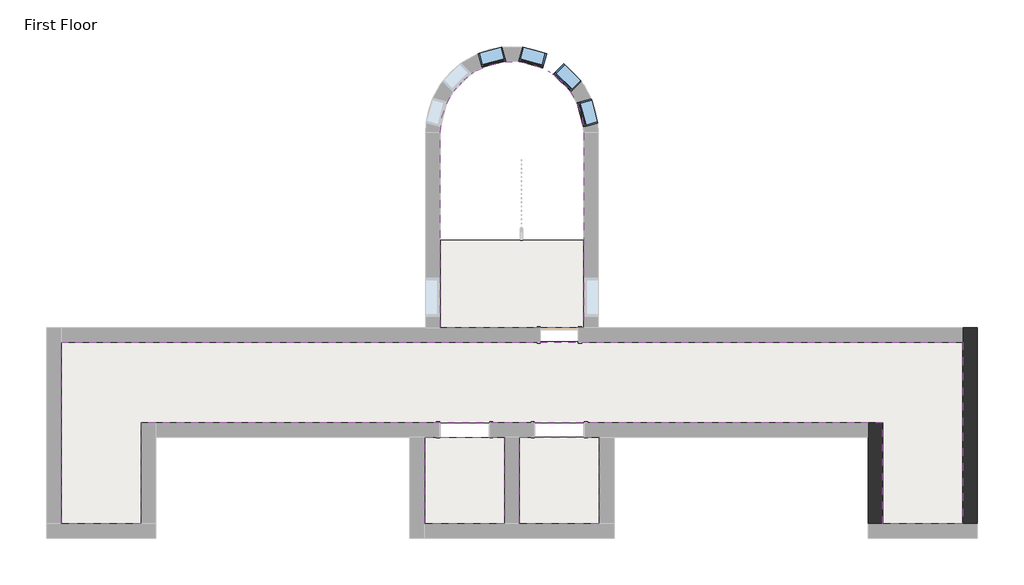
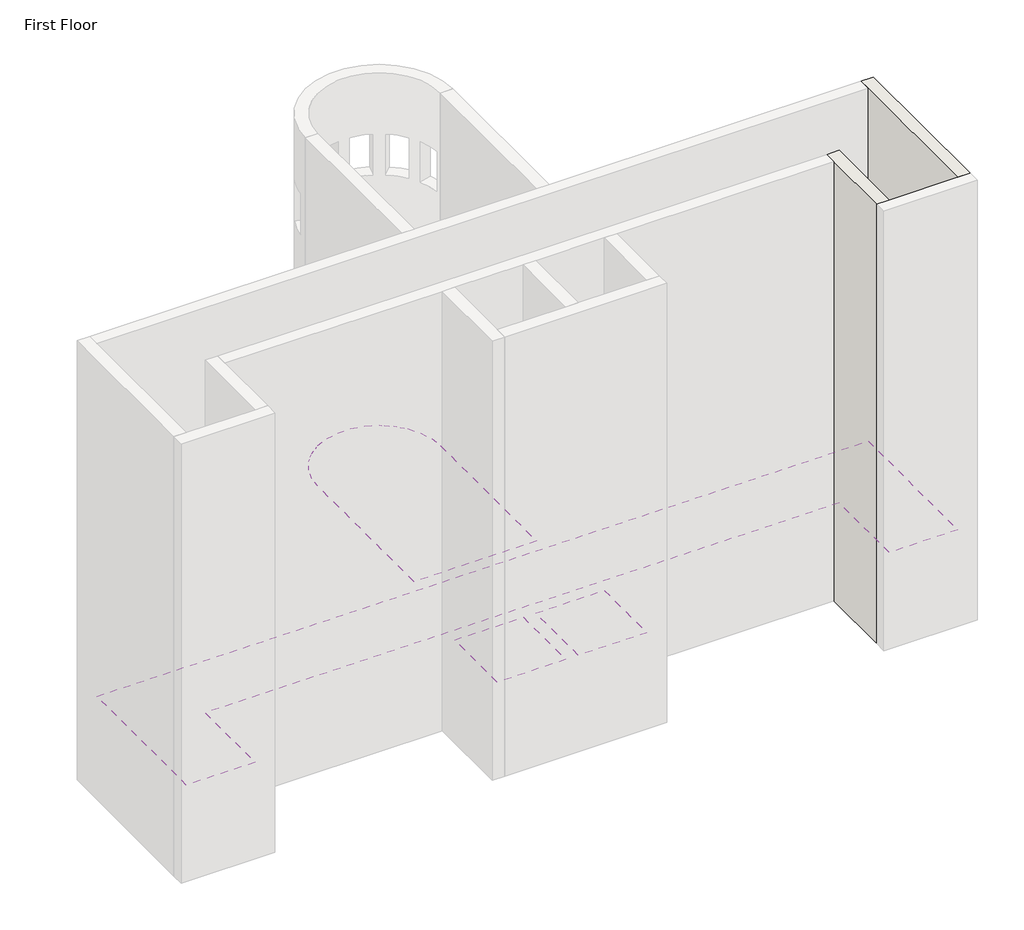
# One storey, part 3 of 5: 4 coverings, 4 windows, 2 slabs, 2 walls.
"""IFC4 building model written with IfcOpenShell, lengths in millimetres."""

import ifcopenshell
import ifcopenshell.guid

model = None  # the IFC model being written
_history = None  # IfcOwnerHistory: only IFC2X3 demands one
_inside = {}  # id of a spatial element -> (the spatial element, [elements in it])
_under = {}  # id of a project, library or spatial element -> (it, [spatial elements below it])
_declared = {}  # id of a project -> (the project, [libraries it declares])
_typed = {}  # id of a type object -> (the type object, [elements of that type])
_made_of = {}  # id of a material, layer set ... -> (it, [elements and type objects made of it])


def new_model(schema):
    """Start an empty IFC model of exactly this schema.

    Asked for "IFC4X3", IfcOpenShell would pick the latest addendum, in which some entities
    have other attributes; the version numbers below select the first issue.
    IFC2X3 requires an IfcOwnerHistory on every rooted entity: one is made here for all.
    """
    global model, _history
    if schema == "IFC4X3":
        model = ifcopenshell.file(schema_version=(4, 3, 0, 0))
    else:
        model = ifcopenshell.file(schema=schema)
    _inside.clear()
    _under.clear()
    _declared.clear()
    _typed.clear()
    _made_of.clear()
    _history = None
    if model.schema == "IFC2X3":
        org = make("IfcOrganization", Name="unknown")
        user = make(
            "IfcPersonAndOrganization",
            ThePerson=make("IfcPerson", FamilyName="unknown"),
            TheOrganization=org,
        )
        app = make(
            "IfcApplication",
            ApplicationDeveloper=org,
            Version="unknown",
            ApplicationFullName="unknown",
            ApplicationIdentifier="unknown",
        )
        _history = make(
            "IfcOwnerHistory",
            OwningUser=user,
            OwningApplication=app,
            ChangeAction="ADDED",
            CreationDate=0,
        )
    return model


def make(cls, **values):
    """One entity of the class cls with the attributes given. An attribute that is None is left unset."""
    return model.create_entity(
        cls, **{name: value for name, value in values.items() if value is not None}
    )


def rooted(cls, **values):
    """An entity with a GlobalId (a new one), such as an element, a storey or a relation."""
    return make(cls, GlobalId=ifcopenshell.guid.new(), OwnerHistory=_history, **values)


def si_unit(unit_type, name, prefix=None):
    """IfcSIUnit, for example si_unit("LENGTHUNIT", "METRE", prefix="MILLI")."""
    return make("IfcSIUnit", UnitType=unit_type, Prefix=prefix, Name=name)


def assignment(units):
    """IfcUnitAssignment: the units of a project."""
    return None if units is None else make("IfcUnitAssignment", Units=units)


def point(xyz):
    """IfcCartesianPoint."""
    return None if xyz is None else make("IfcCartesianPoint", Coordinates=xyz)


def direction(xyz):
    """IfcDirection."""
    return None if xyz is None else make("IfcDirection", DirectionRatios=xyz)


def frame(location, z_axis=None, x_axis=None):
    """IfcAxis2Placement3D, a coordinate frame: its origin and axes. An axis left out is left unset."""
    return make(
        "IfcAxis2Placement3D",
        Location=point(location),
        Axis=direction(z_axis),
        RefDirection=direction(x_axis),
    )


def frame_2d(location, x_axis=None):
    """IfcAxis2Placement2D, a coordinate frame in the plane: its origin and x axis."""
    return make(
        "IfcAxis2Placement2D", Location=point(location), RefDirection=direction(x_axis)
    )


def origin():
    """The frame at (0, 0, 0) with its axes left unset."""
    return frame((0.0, 0.0, 0.0))


def place(relative_to, where):
    """IfcLocalPlacement: puts the frame where relative to a parent placement (None: the world)."""
    return make(
        "IfcLocalPlacement", PlacementRelTo=relative_to, RelativePlacement=where
    )


def context(
    kind, dimensions, precision=None, world=None, true_north=None, identifier=None
):
    """IfcGeometricRepresentationContext, for example the 3D "Model" context."""
    return make(
        "IfcGeometricRepresentationContext",
        ContextIdentifier=identifier,
        ContextType=kind,
        CoordinateSpaceDimension=dimensions,
        Precision=precision,
        WorldCoordinateSystem=world,
        TrueNorth=true_north,
    )


def project(units=None, contexts=None):
    """IfcProject with its units and contexts."""
    return rooted(
        "IfcProject",
        Name="project",
        RepresentationContexts=contexts,
        UnitsInContext=assignment(units),
    )


def spatial(cls, under=None, at=None, **own):
    """A site, building, storey or space (cls), placed at a placement, below another one or the project."""
    s = rooted(cls, ObjectPlacement=at, **own)
    if under is not None:
        _under.setdefault(under.id(), (under, []))[1].append(s)
    return s


def polyline(points):
    """IfcPolyline through the points."""
    return make("IfcPolyline", Points=[point(p) for p in points])


def circle_curve(where, radius):
    """IfcCircle in the frame where."""
    return make("IfcCircle", Position=where, Radius=radius)


def trimmed(basis, trim1, trim2, sense, master):
    """IfcTrimmedCurve: the piece of a basis curve between two trims."""
    return make(
        "IfcTrimmedCurve",
        BasisCurve=basis,
        Trim1=trim1,
        Trim2=trim2,
        SenseAgreement=sense,
        MasterRepresentation=master,
    )


def segment(curve, same_sense, transition):
    """IfcCompositeCurveSegment."""
    return make(
        "IfcCompositeCurveSegment",
        Transition=transition,
        SameSense=same_sense,
        ParentCurve=curve,
    )


def composite_curve(segments, self_intersect=None):
    """IfcCompositeCurve: segments joined end to end."""
    return make("IfcCompositeCurve", Segments=segments, SelfIntersect=self_intersect)


def outline(outer, holes=None, kind="AREA"):
    """IfcArbitraryClosedProfileDef: a profile drawn as a closed curve; with holes, ...WithVoids."""
    if holes is None:
        return make("IfcArbitraryClosedProfileDef", ProfileType=kind, OuterCurve=outer)
    return make(
        "IfcArbitraryProfileDefWithVoids",
        ProfileType=kind,
        OuterCurve=outer,
        InnerCurves=holes,
    )


def extrude(swept, where, along, depth):
    """IfcExtrudedAreaSolid: the profile swept, set in the frame where, extruded along a direction by depth."""
    return make(
        "IfcExtrudedAreaSolid",
        SweptArea=swept,
        Position=where,
        ExtrudedDirection=direction(along),
        Depth=depth,
    )


def faces_of(points, faces, orient=None, outer=None):
    """IfcFace entities. A face is a list of loops; a loop is a list of indices into points, from 0.

    orient and outer hold one flag for each loop. By default every Orientation is true, the
    first loop of a face is its IfcFaceOuterBound and the others are IfcFaceBound.
    """
    made = []
    for i, loops in enumerate(faces):
        bounds = []
        for j, loop in enumerate(loops):
            is_outer = j == 0 if outer is None else outer[i][j]
            bounds.append(
                make(
                    "IfcFaceOuterBound" if is_outer else "IfcFaceBound",
                    Bound=make("IfcPolyLoop", Polygon=[points[k] for k in loop]),
                    Orientation=True if orient is None else orient[i][j],
                )
            )
        made.append(make("IfcFace", Bounds=bounds))
    return made


def faceted_brep(points, faces, orient=None, outer=None, voids=None):
    """IfcFacetedBrep: a solid bounded by flat faces; with voids (closed shells), ...WithVoids."""
    shared = [point(p) for p in points]
    hull = make("IfcClosedShell", CfsFaces=faces_of(shared, faces, orient, outer))
    if voids is None:
        return make("IfcFacetedBrep", Outer=hull)
    return make(
        "IfcFacetedBrepWithVoids",
        Outer=hull,
        Voids=[
            make(cls, CfsFaces=faces_of(shared, fs, o, b)) for cls, fs, o, b in voids
        ],
    )


def shape(context_of_items, identifier, shape_type, items):
    """IfcShapeRepresentation: the items that make up one representation, for example the "Body"."""
    return make(
        "IfcShapeRepresentation",
        ContextOfItems=context_of_items,
        RepresentationIdentifier=identifier,
        RepresentationType=shape_type,
        Items=items,
    )


def source(mapping_origin, context_of_items, identifier, shape_type, items):
    """IfcRepresentationMap: a shape defined once, which mapped items show again and again."""
    return make(
        "IfcRepresentationMap",
        MappingOrigin=mapping_origin,
        MappedRepresentation=shape(context_of_items, identifier, shape_type, items),
    )


def transform(
    local_origin,
    x_axis=None,
    y_axis=None,
    z_axis=None,
    scale=None,
    scale2=None,
    scale3=None,
    uniform=True,
):
    """IfcCartesianTransformationOperator3D, or its non-uniform kind. x_axis, y_axis, z_axis: its Axis1, 2, 3."""
    if uniform:
        return make(
            "IfcCartesianTransformationOperator3D",
            Axis1=direction(x_axis),
            Axis2=direction(y_axis),
            LocalOrigin=point(local_origin),
            Scale=scale,
            Axis3=direction(z_axis),
        )
    return make(
        "IfcCartesianTransformationOperator3DnonUniform",
        Axis1=direction(x_axis),
        Axis2=direction(y_axis),
        LocalOrigin=point(local_origin),
        Scale=scale,
        Axis3=direction(z_axis),
        Scale2=scale2,
        Scale3=scale3,
    )


def mapped(mapping_source, mapping_target):
    """IfcMappedItem: shows the shape of a source again, moved by a transform."""
    return make(
        "IfcMappedItem", MappingSource=mapping_source, MappingTarget=mapping_target
    )


def made_of(thing, what):
    """Note that an element or type object is made of a material, layer set ...; save() writes the relation."""
    if what is not None:
        _made_of.setdefault(what.id(), (what, []))[1].append(thing)
    return thing


def element(
    cls,
    number,
    at=None,
    inside=None,
    cuts=None,
    type_object=None,
    material=None,
    context=None,
    identifier="Body",
    shape_type=None,
    held_by="IfcProductDefinitionShape",
    body=None,
    shapes=None,
    **own,
):
    """One element of the class cls, such as IfcWall. Its Tag is "e" and its number.

    at: its placement. inside: the storey or other place that contains it. cuts: it is an
    opening in that element (IfcRelVoidsElement). A single representation is given by context,
    identifier, shape_type and body (its items); several are given by shapes. held_by: the class
    of the entity that holds the representations. save() writes the other relations.
    """
    e = rooted(cls, Tag="e%d" % number, ObjectPlacement=at, **own)
    if body is not None:
        shapes = [shape(context, identifier, shape_type, body)]
    if shapes is not None:
        e.Representation = make(held_by, Representations=shapes)
    if inside is not None:
        _inside.setdefault(inside.id(), (inside, []))[1].append(e)
    if cuts is not None:
        rooted(
            "IfcRelVoidsElement", RelatingBuildingElement=cuts, RelatedOpeningElement=e
        )
    if type_object is not None:
        _typed.setdefault(type_object.id(), (type_object, []))[1].append(e)
    return made_of(e, material)


def aggregate(whole, parts):
    """IfcRelAggregates: a whole, such as a stair, and the parts it consists of."""
    return rooted("IfcRelAggregates", RelatingObject=whole, RelatedObjects=parts)


def save(model, path):
    """Write the relations noted so far, then the file.

    IfcRelAggregates (storeys below a building ...), IfcRelContainedInSpatialStructure (elements
    in a storey), IfcRelDefinesByType, IfcRelAssociatesMaterial and IfcRelDeclares: one each for
    every whole, place, type object, material and project.
    """
    for whole, parts in _under.values():
        aggregate(whole, parts)
    for where, things in _inside.values():
        rooted(
            "IfcRelContainedInSpatialStructure",
            RelatedElements=things,
            RelatingStructure=where,
        )
    for kind, things in _typed.values():
        rooted("IfcRelDefinesByType", RelatedObjects=things, RelatingType=kind)
    for what, things in _made_of.values():
        rooted("IfcRelAssociatesMaterial", RelatedObjects=things, RelatingMaterial=what)
    for by, libraries in _declared.values():
        rooted("IfcRelDeclares", RelatingContext=by, RelatedDefinitions=libraries)
    model.write(path)


def window_60baf983(model_context):
    return source(origin(), model_context, "Body", "SweptSolid", [
        extrude(outline(polyline([(203.2, 128.5875), (-279.4, 128.5875), (-279.4, 141.2875), (203.2, 141.2875), (203.2, 128.5875)])), frame((0.0, 0.0, 977.9), z_axis=(0.0, 0.0, 1.0), x_axis=(1.0, 0.0, 0.0)), (0.0, 0.0, 1.0), 1092.2),
        extrude(outline(polyline([(2114.55, -323.85), (933.45, -323.85), (933.45, 247.65), (2114.55, 247.65), (2114.55, -323.85)]), holes=[polyline([(2070.1, -279.4), (2070.1, 203.2), (977.9, 203.2), (977.9, -279.4), (2070.1, -279.4)])]), frame((0.0, 112.7125, 0.0), z_axis=(0.0, 1.0, 0.0), x_axis=(0.0, 0.0, 1.0)), (0.0, 0.0, 1.0), 44.45),
        extrude(outline(polyline([(2133.6, -342.9), (914.4, -342.9), (914.4, 266.7), (2133.6, 266.7), (2133.6, -342.9)]), holes=[polyline([(2101.85, -311.15), (2101.85, 234.95), (946.15, 234.95), (946.15, -311.15), (2101.85, -311.15)])]), frame((0.0, -176.2125, 0.0), z_axis=(0.0, 1.0, 0.0), x_axis=(0.0, 0.0, 1.0)), (0.0, 0.0, 1.0), 288.925),
        extrude(outline(polyline([(2133.6, 266.7), (2133.6, -342.9), (914.4, -342.9), (914.4, 266.7), (2133.6, 266.7)]), holes=[polyline([(2114.55, 247.65), (933.45, 247.65), (933.45, -323.85), (2114.55, -323.85), (2114.55, 247.65)])]), frame((0.0, 112.7125, 0.0), z_axis=(0.0, 1.0, 0.0), x_axis=(0.0, 0.0, 1.0)), (0.0, 0.0, 1.0), 63.5),
    ])


model = new_model("IFC4")

# Units and contexts
model_context = context("Model", 3, world=origin())
ifc_project = project(units=[si_unit("LENGTHUNIT", "METRE", prefix="MILLI")], contexts=[model_context])

# Site, building, storey
site = spatial("IfcSite", under=ifc_project)
building = spatial("IfcBuilding", under=site)
storey = spatial("IfcBuildingStorey", under=building, Name="First Floor", Elevation=0.0)

# Coverings
placement = place(None, origin())
element("IfcCovering", 1, ObjectType="GWB on Mtl. Stud", at=placement, inside=storey, context=model_context, shape_type="SweptSolid", body=[
    extrude(outline(polyline([(2693.5975313, 167.7883812), (2693.5975313, 2606.1883812), (-15184.8274687, 2606.1883812), (-15184.8274687, 167.7883812), (-17118.4024687, 167.7883812), (-17118.4024687, 4539.7633812), (4627.1725313, 4539.7633812), (4627.1725313, 167.7883812), (2693.5975313, 167.7883812)])), frame((0.0, 0.0, 2590.8), z_axis=(0.0, 0.0, 1.0), x_axis=(1.0, 0.0, 0.0)), (0.0, 0.0, 1.0), 107.95),
])
element("IfcCovering", 2, ObjectType="GWB on Mtl. Stud", at=placement, inside=storey, context=model_context, shape_type="SweptSolid", body=[
    extrude(outline(composite_curve([segment(polyline([(-7974.4024687, 4892.1883812), (-7974.4024687, 9592.7758812)]), True, "CONTINUOUS"), segment(trimmed(circle_curve(frame_2d((-6245.6149687, 9592.7758812)), 1728.7875), [point((-7974.4024687, 9592.7758812))], [point((-4516.8274687, 9592.7758812))], False, "CARTESIAN"), True, "CONTINUOUS"), segment(polyline([(-4516.8274687, 9592.7758812), (-4516.8274687, 4892.1883812), (-7974.4024687, 4892.1883812)]), True, "CONTINUOUS")], self_intersect=False)), frame((0.0, 0.0, 2590.8), z_axis=(0.0, 0.0, 1.0), x_axis=(1.0, 0.0, 0.0)), (0.0, 0.0, 1.0), 107.95),
])
element("IfcCovering", 3, ObjectType="GWB on Mtl. Stud", at=placement, inside=storey, context=model_context, shape_type="SweptSolid", body=[
    extrude(outline(polyline([(-6421.8274687, 167.7883812), (-8355.4024687, 167.7883812), (-8355.4024687, 2253.7633812), (-6421.8274687, 2253.7633812), (-6421.8274687, 167.7883812)])), frame((0.0, 0.0, 2590.8), z_axis=(0.0, 0.0, 1.0), x_axis=(1.0, 0.0, 0.0)), (0.0, 0.0, 1.0), 107.95),
])
element("IfcCovering", 4, ObjectType="GWB on Mtl. Stud", at=placement, inside=storey, context=model_context, shape_type="SweptSolid", body=[
    extrude(outline(polyline([(-4135.8274687, 2253.7633812), (-4135.8274687, 167.7883812), (-6069.4024687, 167.7883812), (-6069.4024687, 2253.7633812), (-4135.8274687, 2253.7633812)])), frame((0.0, 0.0, 2590.8), z_axis=(0.0, 0.0, 1.0), x_axis=(1.0, 0.0, 0.0)), (0.0, 0.0, 1.0), 107.95),
])

# Slabs
element("IfcSlab", 5, ObjectType="LW Concrete on Metal Deck", at=placement, inside=storey, context=model_context, shape_type="SweptSolid", body=[
    extrude(outline(polyline([(-17118.4024687, 4552.4633812), (4627.1725313, 4552.4633812), (4627.1725313, 167.7883812), (2680.8975313, 167.7883812), (2680.8975313, 2606.1883812), (-15172.1274687, 2606.1883812), (-15172.1274687, 167.7883812), (-17118.4024687, 167.7883812), (-17118.4024687, 4552.4633812)])), frame((0.0, 0.0, -104.775), z_axis=(0.0, 0.0, 1.0), x_axis=(1.0, 0.0, 0.0)), (0.0, 0.0, 1.0), 104.775),
    extrude(outline(polyline([(-8368.1024687, 155.0883812), (-8368.1024687, 2237.8883812), (-6437.7024687, 2237.8883812), (-6437.7024687, 155.0883812), (-8368.1024687, 155.0883812)])), frame((0.0, 0.0, -104.775), z_axis=(0.0, 0.0, 1.0), x_axis=(1.0, 0.0, 0.0)), (0.0, 0.0, 1.0), 104.775),
    extrude(outline(polyline([(-4135.8274687, 2253.7633812), (-4135.8274687, 167.7883812), (-6069.4024687, 167.7883812), (-6069.4024687, 2253.7633812), (-4135.8274687, 2253.7633812)])), frame((0.0, 0.0, -104.775), z_axis=(0.0, 0.0, 1.0), x_axis=(1.0, 0.0, 0.0)), (0.0, 0.0, 1.0), 104.775),
    extrude(outline(polyline([(-4516.8274687, 7001.9758812), (-4516.8274687, 4892.1883812), (-7974.4024687, 4892.1883812), (-7974.4024687, 7001.9758812), (-4516.8274687, 7001.9758812)])), frame((0.0, 0.0, -104.775), z_axis=(0.0, 0.0, 1.0), x_axis=(1.0, 0.0, 0.0)), (0.0, 0.0, 1.0), 104.775),
])
element("IfcSlab", 6, ObjectType="LW Concrete on Metal Deck", at=placement, inside=storey, context=model_context, shape_type="SweptSolid", body=[
    extrude(outline(polyline([(-17118.4024687, 4552.4633812), (4627.1725313, 4552.4633812), (4627.1725313, 167.7883812), (2680.8975313, 167.7883812), (2680.8975313, 2606.1883812), (-15172.1274687, 2606.1883812), (-15172.1274687, 167.7883812), (-17118.4024687, 167.7883812), (-17118.4024687, 4552.4633812)])), frame((0.0, 0.0, -104.775), z_axis=(0.0, 0.0, 1.0), x_axis=(1.0, 0.0, 0.0)), (0.0, 0.0, 1.0), 104.775),
    extrude(outline(polyline([(-8368.1024687, 155.0883812), (-8368.1024687, 2237.8883812), (-6437.7024687, 2237.8883812), (-6437.7024687, 155.0883812), (-8368.1024687, 155.0883812)])), frame((0.0, 0.0, -104.775), z_axis=(0.0, 0.0, 1.0), x_axis=(1.0, 0.0, 0.0)), (0.0, 0.0, 1.0), 104.775),
    extrude(outline(polyline([(-4135.8274687, 2253.7633812), (-4135.8274687, 167.7883812), (-6069.4024687, 167.7883812), (-6069.4024687, 2253.7633812), (-4135.8274687, 2253.7633812)])), frame((0.0, 0.0, -104.775), z_axis=(0.0, 0.0, 1.0), x_axis=(1.0, 0.0, 0.0)), (0.0, 0.0, 1.0), 104.775),
    extrude(outline(polyline([(-4516.8274687, 7001.9758812), (-4516.8274687, 4892.1883812), (-7974.4024687, 4892.1883812), (-7974.4024687, 7001.9758812), (-4516.8274687, 7001.9758812)])), frame((0.0, 0.0, -104.775), z_axis=(0.0, 0.0, 1.0), x_axis=(1.0, 0.0, 0.0)), (0.0, 0.0, 1.0), 104.775),
])

# Walls
element("IfcWall", 7, ObjectType="Exterior - Brick on Mtl. Stud", at=placement, inside=storey, context=model_context, shape_type="Brep", body=[
    faceted_brep([(2341.1725313, 2606.1883812, 0.0), (2341.1725313, 2253.7633812, 0.0), (2341.1725313, 167.7883812, 0.0), (2341.1725313, 167.7883812, 13106.4), (2341.1725313, 2253.7633812, 13106.4), (2341.1725313, 2606.1883812, 13106.4), (2693.5975313, 2606.1883812, 0.0), (2693.5975313, 2606.1883812, 13106.4), (2693.5975313, 167.7883812, 13106.4), (2693.5975313, 167.7883812, 0.0)], [[[0, 1, 2, 3, 4, 5]], [[6, 7, 8, 9]], [[2, 1, 0, 6, 9]], [[5, 4, 3, 8, 7]], [[0, 5, 7, 6]], [[3, 2, 9, 8]]]),
])
element("IfcWall", 8, ObjectType="Exterior - Brick on Mtl. Stud", at=placement, inside=storey, context=model_context, shape_type="Brep", body=[
    faceted_brep([(4979.5975313, 167.7883812, 0.0), (4979.5975313, 4892.1883812, 0.0), (4979.5975313, 4892.1883812, 13106.4), (4979.5975313, 167.7883812, 13106.4), (4627.1725313, 167.7883812, 0.0), (4627.1725313, 167.7883812, 13106.4), (4627.1725313, 4539.7633812, 13106.4), (4627.1725313, 4892.1883812, 13106.4), (4627.1725313, 4892.1883812, 0.0), (4627.1725313, 4539.7633812, 0.0)], [[[0, 1, 2, 3]], [[4, 5, 6, 7, 8, 9]], [[1, 0, 4, 9, 8]], [[3, 2, 7, 6, 5]], [[2, 1, 8, 7]], [[0, 3, 5, 4]]]),
])

# Windows
window_shape = window_60baf983(model_context)
element("IfcWindow", 9, ObjectType="Fixed : 24\" x 48\"", at=placement, inside=storey, context=model_context, shape_type="MappedRepresentation", body=[
    mapped(window_shape, transform((-6764.1450232, 11402.9164066, 0.0), x_axis=(-0.96671009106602, -0.25587418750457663, 0.0), y_axis=(0.25587418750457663, -0.96671009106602, 0.0), z_axis=(0.0, 0.0, 1.0))),
])
element("IfcWindow", 10, ObjectType="Fixed : 24\" x 48\"", at=placement, inside=storey, context=model_context, shape_type="MappedRepresentation", body=[
    mapped(window_shape, transform((-5789.6049059, 11419.6685878, 0.0), x_axis=(-0.9651325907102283, 0.2617614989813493, 0.0), y_axis=(-0.2617614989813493, -0.9651325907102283, 0.0), z_axis=(0.0, 0.0, 1.0))),
])
element("IfcWindow", 11, ObjectType="Fixed : 24\" x 48\"", at=placement, inside=storey, context=model_context, shape_type="MappedRepresentation", body=[
    mapped(window_shape, transform((-4937.2523166, 10946.9063437, 0.0), x_axis=(-0.7049485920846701, 0.7092584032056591, 0.0), y_axis=(-0.7092584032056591, -0.7049485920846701, 0.0), z_axis=(0.0, 0.0, 1.0))),
])
element("IfcWindow", 12, ObjectType="Fixed : 24\" x 48\"", at=placement, inside=storey, context=model_context, shape_type="MappedRepresentation", body=[
    mapped(window_shape, transform((-4435.4744434, 10111.3059357, 0.0), x_axis=(-0.25587418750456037, 0.9667100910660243, 0.0), y_axis=(-0.9667100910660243, -0.25587418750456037, 0.0), z_axis=(0.0, 0.0, 1.0))),
])

save(model, "model.ifc")
